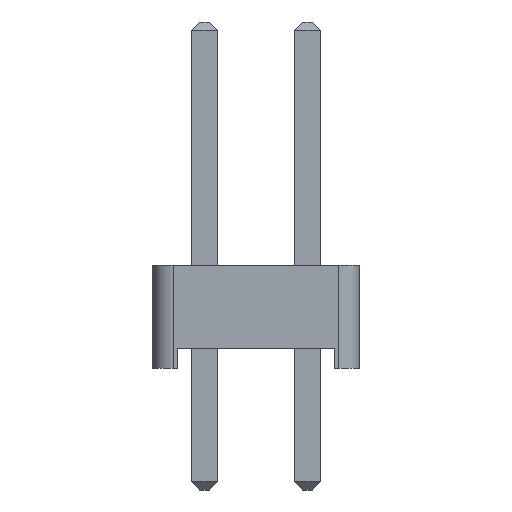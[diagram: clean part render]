
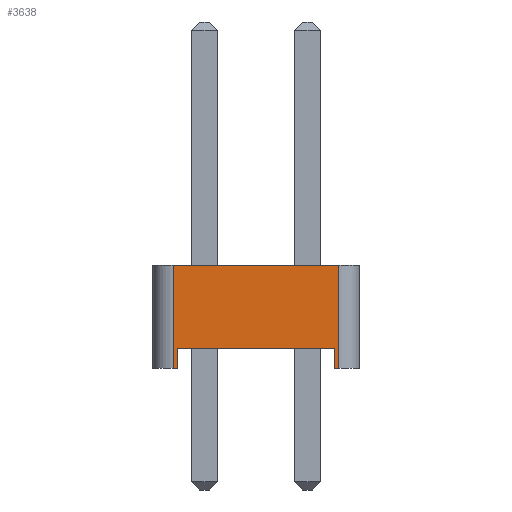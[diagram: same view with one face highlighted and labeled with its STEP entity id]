
A CAD part, left-side view. The second image highlights one B-rep face of the part: STEP entity #3638.
In plain terms, the highlighted planar face has unit normal (-1, 0, 0).
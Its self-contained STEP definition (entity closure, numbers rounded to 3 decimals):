
#3378 = VERTEX_POINT('',#3379);
#3379 = CARTESIAN_POINT('',(-1.27,2.04,0.));
#3387 = PLANE('',#3388);
#3388 = AXIS2_PLACEMENT_3D('',#3389,#3390,#3391);
#3389 = CARTESIAN_POINT('',(0.,0.,0.));
#3390 = DIRECTION('',(-0.,-0.,-1.));
#3391 = DIRECTION('',(-1.,0.,0.));
#3403 = CYLINDRICAL_SURFACE('',#3404,0.5);
#3404 = AXIS2_PLACEMENT_3D('',#3405,#3406,#3407);
#3405 = CARTESIAN_POINT('',(-0.77,2.04,0.));
#3406 = DIRECTION('',(0.,0.,1.));
#3407 = DIRECTION('',(0.,1.,0.));
#3505 = VERTEX_POINT('',#3506);
#3506 = CARTESIAN_POINT('',(-1.27,1.94,0.));
#3520 = PLANE('',#3521);
#3521 = AXIS2_PLACEMENT_3D('',#3522,#3523,#3524);
#3522 = CARTESIAN_POINT('',(1.27,1.94,0.));
#3523 = DIRECTION('',(0.,-1.,0.));
#3524 = DIRECTION('',(-1.,0.,0.));
#3532 = EDGE_CURVE('',#3505,#3378,#3533,.T.);
#3533 = SURFACE_CURVE('',#3534,(#3538,#3545),.PCURVE_S1.);
#3534 = LINE('',#3535,#3536);
#3535 = CARTESIAN_POINT('',(-1.27,-2.54,0.));
#3536 = VECTOR('',#3537,1.);
#3537 = DIRECTION('',(0.,1.,0.));
#3538 = PCURVE('',#3387,#3539);
#3539 = DEFINITIONAL_REPRESENTATION('',(#3540),#3544);
#3540 = LINE('',#3541,#3542);
#3541 = CARTESIAN_POINT('',(1.27,-2.54));
#3542 = VECTOR('',#3543,1.);
#3543 = DIRECTION('',(0.,1.));
#3544 = ( GEOMETRIC_REPRESENTATION_CONTEXT(2) 
PARAMETRIC_REPRESENTATION_CONTEXT() REPRESENTATION_CONTEXT('2D SPACE',''
  ) );
#3545 = PCURVE('',#3546,#3551);
#3546 = PLANE('',#3547);
#3547 = AXIS2_PLACEMENT_3D('',#3548,#3549,#3550);
#3548 = CARTESIAN_POINT('',(-1.27,-2.54,0.));
#3549 = DIRECTION('',(-1.,0.,0.));
#3550 = DIRECTION('',(0.,1.,0.));
#3551 = DEFINITIONAL_REPRESENTATION('',(#3552),#3556);
#3552 = LINE('',#3553,#3554);
#3553 = CARTESIAN_POINT('',(0.,0.));
#3554 = VECTOR('',#3555,1.);
#3555 = DIRECTION('',(1.,0.));
#3556 = ( GEOMETRIC_REPRESENTATION_CONTEXT(2) 
PARAMETRIC_REPRESENTATION_CONTEXT() REPRESENTATION_CONTEXT('2D SPACE',''
  ) );
#3562 = EDGE_CURVE('',#3378,#3563,#3565,.T.);
#3563 = VERTEX_POINT('',#3564);
#3564 = CARTESIAN_POINT('',(-1.27,2.04,2.54));
#3565 = SURFACE_CURVE('',#3566,(#3570,#3577),.PCURVE_S1.);
#3566 = LINE('',#3567,#3568);
#3567 = CARTESIAN_POINT('',(-1.27,2.04,0.));
#3568 = VECTOR('',#3569,1.);
#3569 = DIRECTION('',(0.,0.,1.));
#3570 = PCURVE('',#3403,#3571);
#3571 = DEFINITIONAL_REPRESENTATION('',(#3572),#3576);
#3572 = LINE('',#3573,#3574);
#3573 = CARTESIAN_POINT('',(1.571,0.));
#3574 = VECTOR('',#3575,1.);
#3575 = DIRECTION('',(0.,1.));
#3576 = ( GEOMETRIC_REPRESENTATION_CONTEXT(2) 
PARAMETRIC_REPRESENTATION_CONTEXT() REPRESENTATION_CONTEXT('2D SPACE',''
  ) );
#3577 = PCURVE('',#3546,#3578);
#3578 = DEFINITIONAL_REPRESENTATION('',(#3579),#3583);
#3579 = LINE('',#3580,#3581);
#3580 = CARTESIAN_POINT('',(4.58,0.));
#3581 = VECTOR('',#3582,1.);
#3582 = DIRECTION('',(0.,-1.));
#3583 = ( GEOMETRIC_REPRESENTATION_CONTEXT(2) 
PARAMETRIC_REPRESENTATION_CONTEXT() REPRESENTATION_CONTEXT('2D SPACE',''
  ) );
#3602 = PLANE('',#3603);
#3603 = AXIS2_PLACEMENT_3D('',#3604,#3605,#3606);
#3604 = CARTESIAN_POINT('',(0.,0.,2.54));
#3605 = DIRECTION('',(-0.,-0.,-1.));
#3606 = DIRECTION('',(-1.,0.,0.));
#3638 = ADVANCED_FACE('',(#3639),#3546,.T.);
#3639 = FACE_BOUND('',#3640,.T.);
#3640 = EDGE_LOOP('',(#3641,#3671,#3699,#3720,#3721,#3722,#3745,#3773));
#3641 = ORIENTED_EDGE('',*,*,#3642,.F.);
#3642 = EDGE_CURVE('',#3643,#3645,#3647,.T.);
#3643 = VERTEX_POINT('',#3644);
#3644 = CARTESIAN_POINT('',(-1.27,-2.04,0.));
#3645 = VERTEX_POINT('',#3646);
#3646 = CARTESIAN_POINT('',(-1.27,-1.94,0.));
#3647 = SURFACE_CURVE('',#3648,(#3652,#3659),.PCURVE_S1.);
#3648 = LINE('',#3649,#3650);
#3649 = CARTESIAN_POINT('',(-1.27,-2.54,0.));
#3650 = VECTOR('',#3651,1.);
#3651 = DIRECTION('',(0.,1.,0.));
#3652 = PCURVE('',#3546,#3653);
#3653 = DEFINITIONAL_REPRESENTATION('',(#3654),#3658);
#3654 = LINE('',#3655,#3656);
#3655 = CARTESIAN_POINT('',(0.,0.));
#3656 = VECTOR('',#3657,1.);
#3657 = DIRECTION('',(1.,0.));
#3658 = ( GEOMETRIC_REPRESENTATION_CONTEXT(2) 
PARAMETRIC_REPRESENTATION_CONTEXT() REPRESENTATION_CONTEXT('2D SPACE',''
  ) );
#3659 = PCURVE('',#3660,#3665);
#3660 = PLANE('',#3661);
#3661 = AXIS2_PLACEMENT_3D('',#3662,#3663,#3664);
#3662 = CARTESIAN_POINT('',(0.,0.,0.));
#3663 = DIRECTION('',(-0.,-0.,-1.));
#3664 = DIRECTION('',(-1.,0.,0.));
#3665 = DEFINITIONAL_REPRESENTATION('',(#3666),#3670);
#3666 = LINE('',#3667,#3668);
#3667 = CARTESIAN_POINT('',(1.27,-2.54));
#3668 = VECTOR('',#3669,1.);
#3669 = DIRECTION('',(0.,1.));
#3670 = ( GEOMETRIC_REPRESENTATION_CONTEXT(2) 
PARAMETRIC_REPRESENTATION_CONTEXT() REPRESENTATION_CONTEXT('2D SPACE',''
  ) );
#3671 = ORIENTED_EDGE('',*,*,#3672,.T.);
#3672 = EDGE_CURVE('',#3643,#3673,#3675,.T.);
#3673 = VERTEX_POINT('',#3674);
#3674 = CARTESIAN_POINT('',(-1.27,-2.04,2.54));
#3675 = SURFACE_CURVE('',#3676,(#3680,#3687),.PCURVE_S1.);
#3676 = LINE('',#3677,#3678);
#3677 = CARTESIAN_POINT('',(-1.27,-2.04,0.));
#3678 = VECTOR('',#3679,1.);
#3679 = DIRECTION('',(0.,0.,1.));
#3680 = PCURVE('',#3546,#3681);
#3681 = DEFINITIONAL_REPRESENTATION('',(#3682),#3686);
#3682 = LINE('',#3683,#3684);
#3683 = CARTESIAN_POINT('',(0.5,0.));
#3684 = VECTOR('',#3685,1.);
#3685 = DIRECTION('',(0.,-1.));
#3686 = ( GEOMETRIC_REPRESENTATION_CONTEXT(2) 
PARAMETRIC_REPRESENTATION_CONTEXT() REPRESENTATION_CONTEXT('2D SPACE',''
  ) );
#3687 = PCURVE('',#3688,#3693);
#3688 = CYLINDRICAL_SURFACE('',#3689,0.5);
#3689 = AXIS2_PLACEMENT_3D('',#3690,#3691,#3692);
#3690 = CARTESIAN_POINT('',(-0.77,-2.04,0.));
#3691 = DIRECTION('',(0.,0.,1.));
#3692 = DIRECTION('',(0.,-1.,0.));
#3693 = DEFINITIONAL_REPRESENTATION('',(#3694),#3698);
#3694 = LINE('',#3695,#3696);
#3695 = CARTESIAN_POINT('',(-1.571,0.));
#3696 = VECTOR('',#3697,1.);
#3697 = DIRECTION('',(-0.,1.));
#3698 = ( GEOMETRIC_REPRESENTATION_CONTEXT(2) 
PARAMETRIC_REPRESENTATION_CONTEXT() REPRESENTATION_CONTEXT('2D SPACE',''
  ) );
#3699 = ORIENTED_EDGE('',*,*,#3700,.T.);
#3700 = EDGE_CURVE('',#3673,#3563,#3701,.T.);
#3701 = SURFACE_CURVE('',#3702,(#3706,#3713),.PCURVE_S1.);
#3702 = LINE('',#3703,#3704);
#3703 = CARTESIAN_POINT('',(-1.27,-2.54,2.54));
#3704 = VECTOR('',#3705,1.);
#3705 = DIRECTION('',(0.,1.,0.));
#3706 = PCURVE('',#3546,#3707);
#3707 = DEFINITIONAL_REPRESENTATION('',(#3708),#3712);
#3708 = LINE('',#3709,#3710);
#3709 = CARTESIAN_POINT('',(0.,-2.54));
#3710 = VECTOR('',#3711,1.);
#3711 = DIRECTION('',(1.,0.));
#3712 = ( GEOMETRIC_REPRESENTATION_CONTEXT(2) 
PARAMETRIC_REPRESENTATION_CONTEXT() REPRESENTATION_CONTEXT('2D SPACE',''
  ) );
#3713 = PCURVE('',#3602,#3714);
#3714 = DEFINITIONAL_REPRESENTATION('',(#3715),#3719);
#3715 = LINE('',#3716,#3717);
#3716 = CARTESIAN_POINT('',(1.27,-2.54));
#3717 = VECTOR('',#3718,1.);
#3718 = DIRECTION('',(0.,1.));
#3719 = ( GEOMETRIC_REPRESENTATION_CONTEXT(2) 
PARAMETRIC_REPRESENTATION_CONTEXT() REPRESENTATION_CONTEXT('2D SPACE',''
  ) );
#3720 = ORIENTED_EDGE('',*,*,#3562,.F.);
#3721 = ORIENTED_EDGE('',*,*,#3532,.F.);
#3722 = ORIENTED_EDGE('',*,*,#3723,.T.);
#3723 = EDGE_CURVE('',#3505,#3724,#3726,.T.);
#3724 = VERTEX_POINT('',#3725);
#3725 = CARTESIAN_POINT('',(-1.27,1.94,0.5));
#3726 = SURFACE_CURVE('',#3727,(#3731,#3738),.PCURVE_S1.);
#3727 = LINE('',#3728,#3729);
#3728 = CARTESIAN_POINT('',(-1.27,1.94,0.));
#3729 = VECTOR('',#3730,1.);
#3730 = DIRECTION('',(0.,0.,1.));
#3731 = PCURVE('',#3546,#3732);
#3732 = DEFINITIONAL_REPRESENTATION('',(#3733),#3737);
#3733 = LINE('',#3734,#3735);
#3734 = CARTESIAN_POINT('',(4.48,0.));
#3735 = VECTOR('',#3736,1.);
#3736 = DIRECTION('',(0.,-1.));
#3737 = ( GEOMETRIC_REPRESENTATION_CONTEXT(2) 
PARAMETRIC_REPRESENTATION_CONTEXT() REPRESENTATION_CONTEXT('2D SPACE',''
  ) );
#3738 = PCURVE('',#3520,#3739);
#3739 = DEFINITIONAL_REPRESENTATION('',(#3740),#3744);
#3740 = LINE('',#3741,#3742);
#3741 = CARTESIAN_POINT('',(2.54,0.));
#3742 = VECTOR('',#3743,1.);
#3743 = DIRECTION('',(0.,-1.));
#3744 = ( GEOMETRIC_REPRESENTATION_CONTEXT(2) 
PARAMETRIC_REPRESENTATION_CONTEXT() REPRESENTATION_CONTEXT('2D SPACE',''
  ) );
#3745 = ORIENTED_EDGE('',*,*,#3746,.T.);
#3746 = EDGE_CURVE('',#3724,#3747,#3749,.T.);
#3747 = VERTEX_POINT('',#3748);
#3748 = CARTESIAN_POINT('',(-1.27,-1.94,0.5));
#3749 = SURFACE_CURVE('',#3750,(#3754,#3761),.PCURVE_S1.);
#3750 = LINE('',#3751,#3752);
#3751 = CARTESIAN_POINT('',(-1.27,1.94,0.5));
#3752 = VECTOR('',#3753,1.);
#3753 = DIRECTION('',(0.,-1.,0.));
#3754 = PCURVE('',#3546,#3755);
#3755 = DEFINITIONAL_REPRESENTATION('',(#3756),#3760);
#3756 = LINE('',#3757,#3758);
#3757 = CARTESIAN_POINT('',(4.48,-0.5));
#3758 = VECTOR('',#3759,1.);
#3759 = DIRECTION('',(-1.,0.));
#3760 = ( GEOMETRIC_REPRESENTATION_CONTEXT(2) 
PARAMETRIC_REPRESENTATION_CONTEXT() REPRESENTATION_CONTEXT('2D SPACE',''
  ) );
#3761 = PCURVE('',#3762,#3767);
#3762 = PLANE('',#3763);
#3763 = AXIS2_PLACEMENT_3D('',#3764,#3765,#3766);
#3764 = CARTESIAN_POINT('',(0.,0.,0.5));
#3765 = DIRECTION('',(0.,0.,1.));
#3766 = DIRECTION('',(1.,0.,0.));
#3767 = DEFINITIONAL_REPRESENTATION('',(#3768),#3772);
#3768 = LINE('',#3769,#3770);
#3769 = CARTESIAN_POINT('',(-1.27,1.94));
#3770 = VECTOR('',#3771,1.);
#3771 = DIRECTION('',(0.,-1.));
#3772 = ( GEOMETRIC_REPRESENTATION_CONTEXT(2) 
PARAMETRIC_REPRESENTATION_CONTEXT() REPRESENTATION_CONTEXT('2D SPACE',''
  ) );
#3773 = ORIENTED_EDGE('',*,*,#3774,.F.);
#3774 = EDGE_CURVE('',#3645,#3747,#3775,.T.);
#3775 = SURFACE_CURVE('',#3776,(#3780,#3787),.PCURVE_S1.);
#3776 = LINE('',#3777,#3778);
#3777 = CARTESIAN_POINT('',(-1.27,-1.94,0.));
#3778 = VECTOR('',#3779,1.);
#3779 = DIRECTION('',(0.,0.,1.));
#3780 = PCURVE('',#3546,#3781);
#3781 = DEFINITIONAL_REPRESENTATION('',(#3782),#3786);
#3782 = LINE('',#3783,#3784);
#3783 = CARTESIAN_POINT('',(0.6,0.));
#3784 = VECTOR('',#3785,1.);
#3785 = DIRECTION('',(0.,-1.));
#3786 = ( GEOMETRIC_REPRESENTATION_CONTEXT(2) 
PARAMETRIC_REPRESENTATION_CONTEXT() REPRESENTATION_CONTEXT('2D SPACE',''
  ) );
#3787 = PCURVE('',#3788,#3793);
#3788 = PLANE('',#3789);
#3789 = AXIS2_PLACEMENT_3D('',#3790,#3791,#3792);
#3790 = CARTESIAN_POINT('',(-1.27,-1.94,0.));
#3791 = DIRECTION('',(0.,1.,0.));
#3792 = DIRECTION('',(1.,0.,0.));
#3793 = DEFINITIONAL_REPRESENTATION('',(#3794),#3798);
#3794 = LINE('',#3795,#3796);
#3795 = CARTESIAN_POINT('',(0.,0.));
#3796 = VECTOR('',#3797,1.);
#3797 = DIRECTION('',(0.,-1.));
#3798 = ( GEOMETRIC_REPRESENTATION_CONTEXT(2) 
PARAMETRIC_REPRESENTATION_CONTEXT() REPRESENTATION_CONTEXT('2D SPACE',''
  ) );
